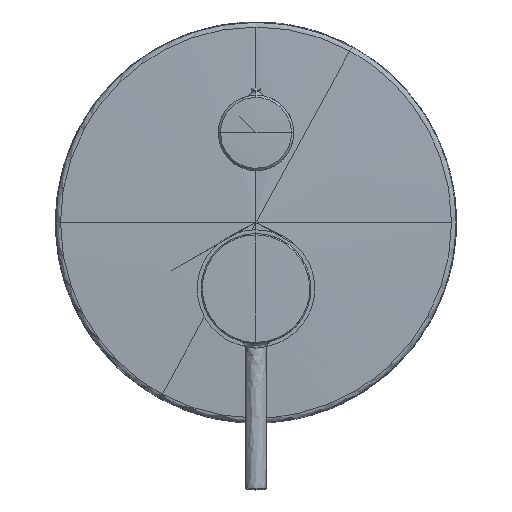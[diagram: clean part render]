
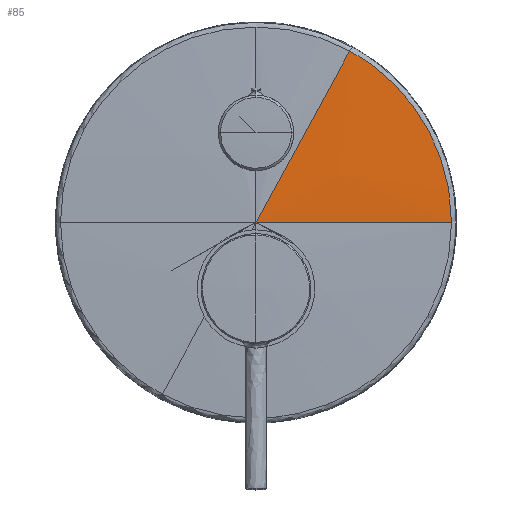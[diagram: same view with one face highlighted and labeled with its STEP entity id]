
A CAD part, front view. The second image highlights one B-rep face of the part: STEP entity #85.
In plain terms, the highlighted free-form (B-spline) face has degree [2, 2] with [3, 3] control points.
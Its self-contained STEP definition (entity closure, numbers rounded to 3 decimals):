
#85=ADVANCED_FACE('',(#192),#1979,.T.);
#192=FACE_OUTER_BOUND('',#304,.T.);
#304=EDGE_LOOP('',(#707,#708,#709));
#707=ORIENTED_EDGE('',*,*,#1211,.T.);
#708=ORIENTED_EDGE('',*,*,#1190,.F.);
#709=ORIENTED_EDGE('',*,*,#1189,.T.);
#1189=EDGE_CURVE('',#1761,#1836,#1599,.T.);
#1190=EDGE_CURVE('',#1761,#1805,#1600,.T.);
#1211=EDGE_CURVE('',#1836,#1805,#1601,.T.);
#1599=(
BOUNDED_CURVE()
B_SPLINE_CURVE(2,(#5965,#5966,#5967),.UNSPECIFIED.,.F.,.F.)
B_SPLINE_CURVE_WITH_KNOTS((3,3),(-8264.615,-8137.777),
 .UNSPECIFIED.)
CURVE()
GEOMETRIC_REPRESENTATION_ITEM()
RATIONAL_B_SPLINE_CURVE((1.,1.,1.))
REPRESENTATION_ITEM('')
);
#1600=(
BOUNDED_CURVE()
B_SPLINE_CURVE(2,(#5968,#5969,#5970),.UNSPECIFIED.,.F.,.F.)
B_SPLINE_CURVE_WITH_KNOTS((3,3),(-63.419,63.419),
 .UNSPECIFIED.)
CURVE()
GEOMETRIC_REPRESENTATION_ITEM()
RATIONAL_B_SPLINE_CURVE((1.,1.,1.))
REPRESENTATION_ITEM('')
);
#1601=(
BOUNDED_CURVE()
B_SPLINE_CURVE(2,(#6165,#6166,#6167),.UNSPECIFIED.,.F.,.F.)
B_SPLINE_CURVE_WITH_KNOTS((3,3),(0.,1528.962),.UNSPECIFIED.)
CURVE()
GEOMETRIC_REPRESENTATION_ITEM()
RATIONAL_B_SPLINE_CURVE((1.,0.86,1.))
REPRESENTATION_ITEM('')
);
#1761=VERTEX_POINT('',#5440);
#1805=VERTEX_POINT('',#5484);
#1836=VERTEX_POINT('',#5515);
#1979=(
BOUNDED_SURFACE()
B_SPLINE_SURFACE(2,2,((#5081,#5082,#5083),(#5084,#5085,#5086),(#5087,#5088,
#5089)),.UNSPECIFIED.,.F.,.F.,.F.)
B_SPLINE_SURFACE_WITH_KNOTS((3,3),(3,3),(0.,2270.4),(4132.308,8264.615),
 .UNSPECIFIED.)
GEOMETRIC_REPRESENTATION_ITEM()
RATIONAL_B_SPLINE_SURFACE(((1.,0.707,1.),(0.707,0.5,0.707),
(1.,0.707,1.)))
REPRESENTATION_ITEM('')
SURFACE()
);
#5081=CARTESIAN_POINT('',(1893.309,1911.65,14.767));
#5082=CARTESIAN_POINT('',(1893.309,19.65,14.767));
#5083=CARTESIAN_POINT('',(1.309,19.65,14.767));
#5084=CARTESIAN_POINT('',(1893.309,1911.65,1906.767));
#5085=CARTESIAN_POINT('',(1893.309,19.65,1906.767));
#5086=CARTESIAN_POINT('',(1.309,19.65,14.767));
#5087=CARTESIAN_POINT('',(1.309,1911.65,1906.767));
#5088=CARTESIAN_POINT('',(1.309,19.65,1906.767));
#5089=CARTESIAN_POINT('',(1.309,19.65,14.767));
#5440=CARTESIAN_POINT('',(1.309,19.65,14.767));
#5484=CARTESIAN_POINT('',(41.021,21.464,87.461));
#5515=CARTESIAN_POINT('',(84.142,21.464,14.767));
#5965=CARTESIAN_POINT('',(1.309,19.65,14.767));
#5966=CARTESIAN_POINT('',(42.746,19.65,14.767));
#5967=CARTESIAN_POINT('',(84.142,21.464,14.767));
#5968=CARTESIAN_POINT('',(1.309,19.65,14.767));
#5969=CARTESIAN_POINT('',(21.175,19.65,51.131));
#5970=CARTESIAN_POINT('',(41.021,21.464,87.461));
#6165=CARTESIAN_POINT('',(84.142,21.464,14.767));
#6166=CARTESIAN_POINT('',(84.142,21.464,63.904));
#6167=CARTESIAN_POINT('',(41.021,21.464,87.461));
